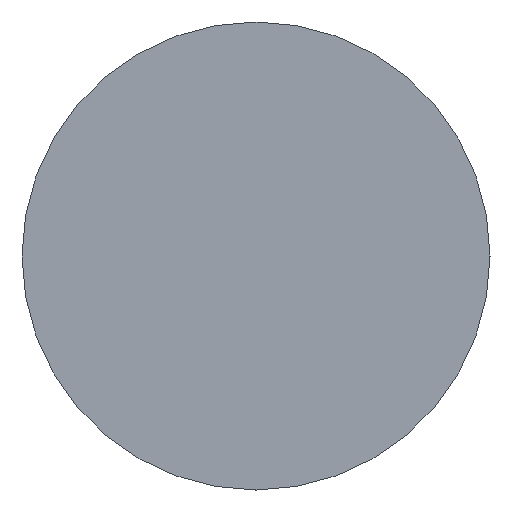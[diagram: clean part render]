
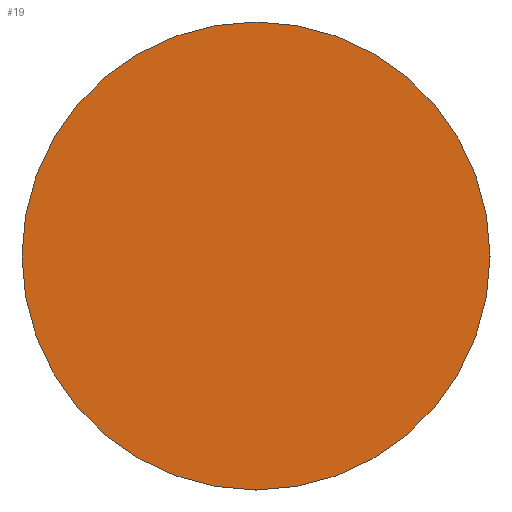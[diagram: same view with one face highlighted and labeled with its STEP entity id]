
A CAD part, left-side view. The second image highlights one B-rep face of the part: STEP entity #19.
In plain terms, the highlighted planar face has unit normal (-1, 0, 0).
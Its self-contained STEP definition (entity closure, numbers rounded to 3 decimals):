
#9 = EDGE_LOOP ( 'NONE', ( #537, #341 ) ) ;
#19 = ADVANCED_FACE ( 'NONE', ( #269 ), #273, .F. ) ;
#36 = EDGE_CURVE ( 'NONE', #39, #358, #366, .T. ) ;
#39 = VERTEX_POINT ( 'NONE', #381 ) ;
#48 = EDGE_CURVE ( 'NONE', #358, #39, #156, .T. ) ;
#156 = CIRCLE ( 'NONE', #157, 5. ) ;
#157 = AXIS2_PLACEMENT_3D ( 'NONE', #158, #159, #160 ) ;
#158 = CARTESIAN_POINT ( 'NONE',  ( 0., 0., 0. ) ) ;
#159 = DIRECTION ( 'NONE',  ( -1., 0., 0. ) ) ;
#160 = DIRECTION ( 'NONE',  ( 0., 0., 1. ) ) ;
#238 = CARTESIAN_POINT ( 'NONE',  ( 0., 0., -5. ) ) ;
#269 = FACE_OUTER_BOUND ( 'NONE', #9, .T. ) ;
#273 = PLANE ( 'NONE',  #274 ) ;
#274 = AXIS2_PLACEMENT_3D ( 'NONE', #275, #276, #277 ) ;
#275 = CARTESIAN_POINT ( 'NONE',  ( 0., 5., 0. ) ) ;
#276 = DIRECTION ( 'NONE',  ( 1., 0., 0. ) ) ;
#277 = DIRECTION ( 'NONE',  ( 0., 0., -1. ) ) ;
#341 = ORIENTED_EDGE ( 'NONE', *, *, #48, .T. ) ;
#358 = VERTEX_POINT ( 'NONE', #238 ) ;
#366 = CIRCLE ( 'NONE', #367, 5. ) ;
#367 = AXIS2_PLACEMENT_3D ( 'NONE', #368, #369, #370 ) ;
#368 = CARTESIAN_POINT ( 'NONE',  ( 0., 0., 0. ) ) ;
#369 = DIRECTION ( 'NONE',  ( -1., 0., 0. ) ) ;
#370 = DIRECTION ( 'NONE',  ( 0., 0., 1. ) ) ;
#381 = CARTESIAN_POINT ( 'NONE',  ( 0., 0., 5. ) ) ;
#537 = ORIENTED_EDGE ( 'NONE', *, *, #36, .T. ) ;
